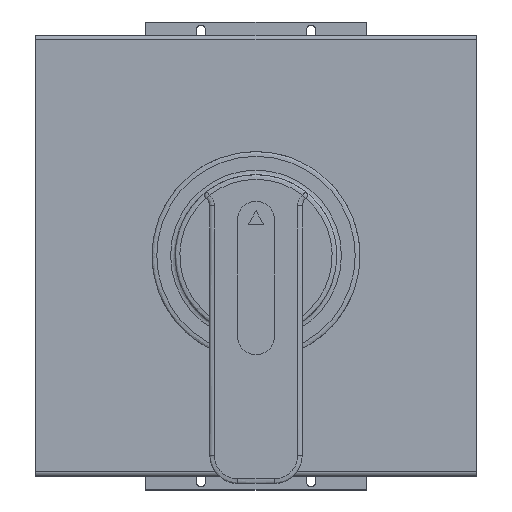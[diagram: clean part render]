
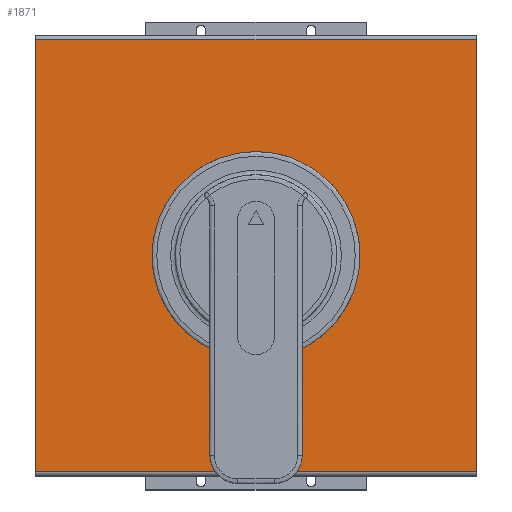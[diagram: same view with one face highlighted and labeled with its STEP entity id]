
A CAD part, top view. The second image highlights one B-rep face of the part: STEP entity #1871.
In plain terms, the highlighted planar face has unit normal (0, 0, 1).
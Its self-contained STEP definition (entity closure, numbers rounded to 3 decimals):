
#92=PLANE('',#2003);
#155=LINE('',#2696,#310);
#157=LINE('',#2702,#312);
#163=LINE('',#2724,#318);
#164=LINE('',#2725,#319);
#310=VECTOR('',#2182,10.);
#312=VECTOR('',#2188,10.);
#318=VECTOR('',#2206,10.);
#319=VECTOR('',#2207,10.);
#466=FACE_BOUND('',#608,.T.);
#490=FACE_OUTER_BOUND('',#607,.T.);
#607=EDGE_LOOP('',(#1302,#1303,#1304,#1305));
#608=EDGE_LOOP('',(#1306));
#741=CIRCLE('',#1992,5.);
#824=VERTEX_POINT('',#2687);
#827=VERTEX_POINT('',#2693);
#828=VERTEX_POINT('',#2695);
#830=VERTEX_POINT('',#2701);
#840=VERTEX_POINT('',#2723);
#1006=EDGE_CURVE('',#824,#824,#741,.T.);
#1009=EDGE_CURVE('',#827,#828,#155,.T.);
#1012=EDGE_CURVE('',#828,#830,#157,.T.);
#1023=EDGE_CURVE('',#827,#840,#163,.T.);
#1024=EDGE_CURVE('',#830,#840,#164,.T.);
#1302=ORIENTED_EDGE('',*,*,#1009,.F.);
#1303=ORIENTED_EDGE('',*,*,#1023,.T.);
#1304=ORIENTED_EDGE('',*,*,#1024,.F.);
#1305=ORIENTED_EDGE('',*,*,#1012,.F.);
#1306=ORIENTED_EDGE('',*,*,#1006,.T.);
#1871=ADVANCED_FACE('',(#490,#466),#92,.T.);
#1992=AXIS2_PLACEMENT_3D('',#2688,#2174,#2175);
#2003=AXIS2_PLACEMENT_3D('',#2722,#2204,#2205);
#2174=DIRECTION('center_axis',(0.,0.,-1.));
#2175=DIRECTION('ref_axis',(1.,0.,0.));
#2182=DIRECTION('',(1.,0.,0.));
#2188=DIRECTION('',(0.,-1.,0.));
#2204=DIRECTION('center_axis',(0.,0.,1.));
#2205=DIRECTION('ref_axis',(1.,0.,0.));
#2206=DIRECTION('',(0.,-1.,0.));
#2207=DIRECTION('',(-1.,0.,0.));
#2687=CARTESIAN_POINT('',(-5.,0.,72.));
#2688=CARTESIAN_POINT('Origin',(0.,0.,72.));
#2693=CARTESIAN_POINT('',(-105.,103.,72.));
#2695=CARTESIAN_POINT('',(105.,103.,72.));
#2696=CARTESIAN_POINT('',(52.5,103.,72.));
#2701=CARTESIAN_POINT('',(105.,-103.,72.));
#2702=CARTESIAN_POINT('',(105.,-105.,72.));
#2722=CARTESIAN_POINT('Origin',(0.,104.,72.));
#2723=CARTESIAN_POINT('',(-105.,-103.,72.));
#2724=CARTESIAN_POINT('',(-105.,103.,72.));
#2725=CARTESIAN_POINT('',(52.5,-103.,72.));
